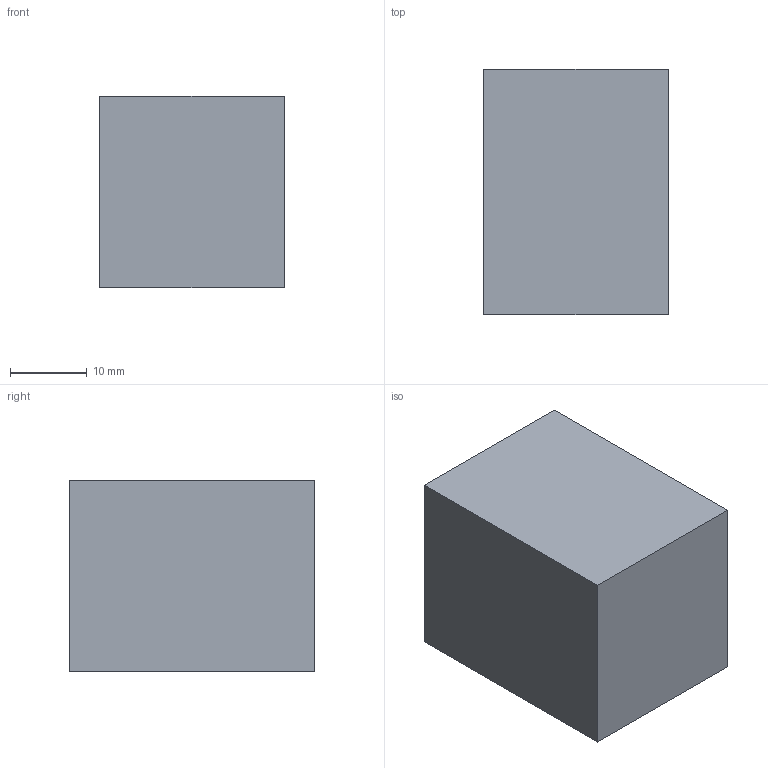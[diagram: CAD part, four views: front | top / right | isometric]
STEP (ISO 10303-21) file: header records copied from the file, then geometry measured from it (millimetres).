
FILE_DESCRIPTION(('Open CASCADE Model'),'2;1');
FILE_NAME('Open CASCADE Shape Model','2026-10-04T01:02:25',('Author'),( 'Open CASCADE'),'Open CASCADE STEP processor 8.0','Open CASCADE 8.0' ,'Unknown');
FILE_SCHEMA(('AUTOMOTIVE_DESIGN { 1 0 10303 214 1 1 1 1 }'));
Length unit declared in the file: millimetre
Products named in the file (1): Open CASCADE STEP translator 8.0 45
Bounding box: 24 x 32 x 25 mm (x, y, z)
Volume: 19200 mm3; surface area: 4336 mm2
Topology: 1 solids, 1 shells, 6 faces, 12 edges, 8 vertices
Faces by surface type: plane 6
Entity records: 322 total; most frequent: CARTESIAN_POINT 51, DIRECTION 50, LINE 36, VECTOR 36, ORIENTED_EDGE 24, PCURVE 24, DEFINITIONAL_REPRESENTATION 24, EDGE_CURVE 12
